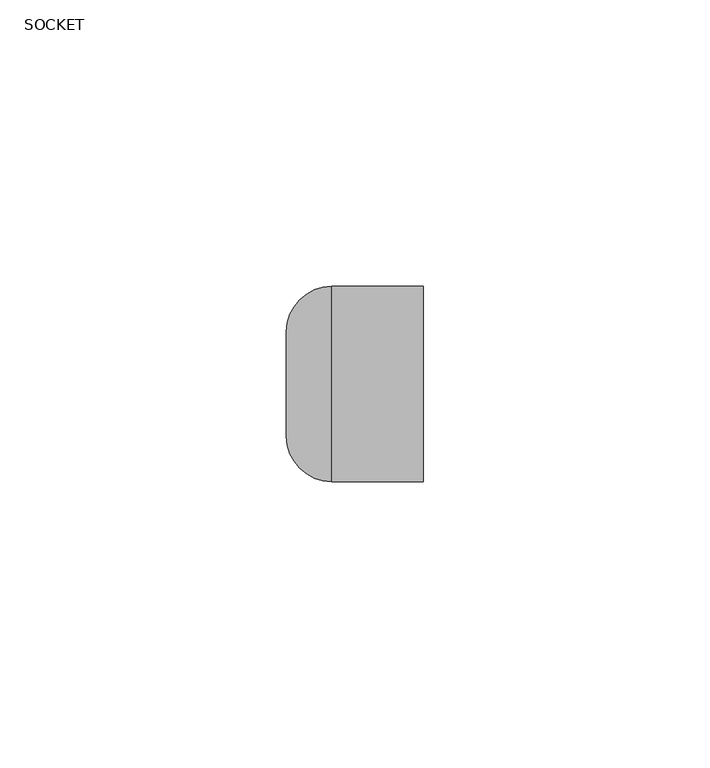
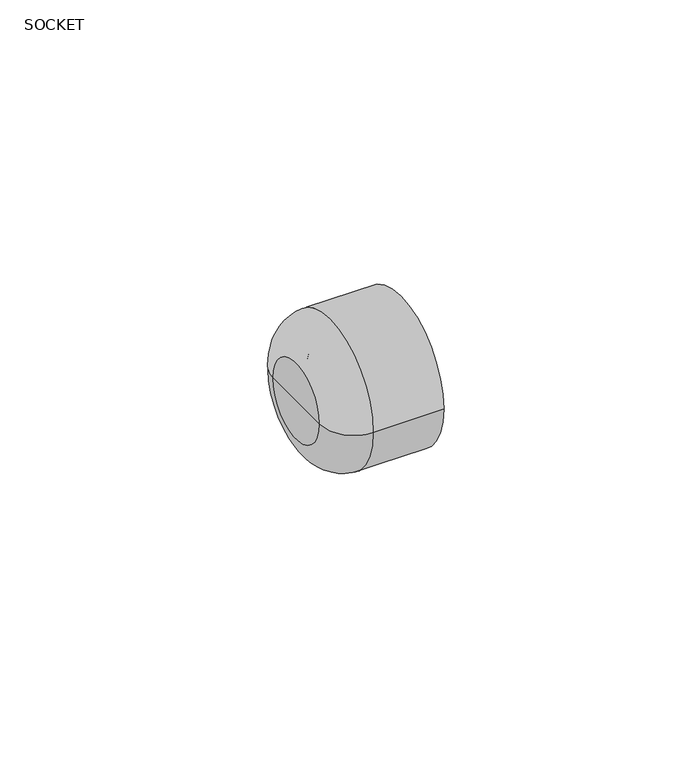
"""IFC4 building model written with IfcOpenShell, lengths in millimetres: pipe fitting geometry, Aquatherm - End Cap Socket : SOCKET."""

from ifc_helpers import new_model, si_unit, point, frame, origin, place, context, project, spatial, polyline, circle_curve, ellipse_curve, trimmed, source, transform, mapped, element, save
from ifc_brep_helpers import plane_surface, cylinder_surface, revolved_surface, advanced_brep


def socket_e6412d3c(model_context):
    return source(origin(), model_context, "Body", "AdvancedBrep", [
        advanced_brep(
        [(-23.876, 0.0, 0.0), (-23.876, 9.144, 0.0), (-23.876, -9.144, 0.0), (-15.5246832, -12.446, 0.0), (-15.5246832, 12.446, 0.0), (-15.5246832, 9.4540832, 0.0), (-15.5246832, -9.4540832, 0.0), (0.0, -12.446, 0.0), (0.0, 12.446, 0.0), (0.0, -17.018, 0.0), (0.0, 17.018, 0.0), (-16.002, -17.018, 0.0), (-16.002, 17.018, 0.0), (-16.3120832, -8.6666832, 0.0), (-16.3120832, 8.6666832, 0.0), (-16.3120832, 0.0, 0.0)],
        [
            (0, 1),
            (1, 2, circle_curve(frame((-23.876, 0.0, 0.0), z_axis=(-1.0, 0.0, 0.0), x_axis=(0.0, 1.0, 0.0)), 9.144)),
            (2, 0),
            (2, 1, circle_curve(frame((-23.876, 0.0, 0.0), z_axis=(-1.0, 0.0, 0.0), x_axis=(0.0, 1.0, 0.0)), 9.144)),
            (3, 4, circle_curve(frame((-15.5246832, 0.0, 0.0), z_axis=(1.0, 0.0, 0.0), x_axis=(0.0, 1.0, 0.0)), 12.446)),
            (4, 5),
            (5, 6, circle_curve(frame((-15.5246832, 0.0, 0.0), z_axis=(-1.0, 0.0, 0.0), x_axis=(0.0, 1.0, 0.0)), 9.4540832)),
            (6, 3),
            (4, 3, circle_curve(frame((-15.5246832, 0.0, 0.0), z_axis=(1.0, 0.0, 0.0), x_axis=(0.0, 1.0, 0.0)), 12.446)),
            (6, 5, circle_curve(frame((-15.5246832, 0.0, 0.0), z_axis=(-1.0, 0.0, 0.0), x_axis=(0.0, 1.0, 0.0)), 9.4540832)),
            (7, 8, circle_curve(frame((0.0, 0.0, 0.0), z_axis=(1.0, 0.0, 0.0), x_axis=(0.0, 1.0, 0.0)), 12.446)),
            (8, 4),
            (3, 7),
            (8, 7, circle_curve(frame((0.0, 0.0, 0.0), z_axis=(1.0, 0.0, 0.0), x_axis=(0.0, 1.0, 0.0)), 12.446)),
            (9, 10, circle_curve(frame((0.0, 0.0, 0.0), z_axis=(1.0, 0.0, 0.0), x_axis=(0.0, 1.0, 0.0)), 17.018)),
            (10, 8),
            (7, 9),
            (10, 9, circle_curve(frame((0.0, 0.0, 0.0), z_axis=(1.0, 0.0, 0.0), x_axis=(0.0, 1.0, 0.0)), 17.018)),
            (11, 12, circle_curve(frame((-16.002, 0.0, 0.0), z_axis=(1.0, 0.0, 0.0), x_axis=(0.0, 1.0, 0.0)), 17.018)),
            (12, 10),
            (9, 11),
            (12, 11, circle_curve(frame((-16.002, 0.0, 0.0), z_axis=(1.0, 0.0, 0.0), x_axis=(0.0, 1.0, 0.0)), 17.018)),
            (1, 12, circle_curve(frame((-16.002, 9.144, 0.0), z_axis=(0.0, 0.0, -1.0), x_axis=(1.0, 0.0, 0.0)), 7.874)),
            (11, 2, circle_curve(frame((-16.002, -9.144, 0.0), z_axis=(0.0, 0.0, -1.0), x_axis=(1.0, 0.0, 0.0)), 7.874)),
            (13, 14, circle_curve(frame((-16.3120832, 0.0, 0.0), z_axis=(1.0, 0.0, 0.0), x_axis=(0.0, 1.0, 0.0)), 8.6666832)),
            (14, 15),
            (15, 13),
            (14, 13, circle_curve(frame((-16.3120832, 0.0, 0.0), z_axis=(1.0, 0.0, 0.0), x_axis=(0.0, 1.0, 0.0)), 8.6666832)),
            (5, 14, circle_curve(frame((-15.5246832, 8.6666832, 0.0), z_axis=(0.0, 0.0, 1.0), x_axis=(1.0, 0.0, 0.0)), 0.7874)),
            (13, 6, circle_curve(frame((-15.5246832, -8.6666832, 0.0), z_axis=(0.0, 0.0, 1.0), x_axis=(1.0, 0.0, 0.0)), 0.7874)),
        ],
        [
            plane_surface(frame((-23.876, 0.0, 0.0), z_axis=(-1.0, 0.0, 0.0), x_axis=(0.0, 1.0, 0.0))),
            plane_surface(frame((-15.5246832, 0.0, 0.0), z_axis=(1.0, 0.0, 0.0), x_axis=(0.0, 1.0, 0.0))),
            revolved_surface(polyline([(-15.5246832, 12.446, 0.0), (0.0, 12.446, 0.0)]), (-16.3120832, 0.0, 0.0), (-1.0, 0.0, 0.0)),
            plane_surface(frame((0.0, 0.0, 0.0), z_axis=(1.0, 0.0, 0.0), x_axis=(0.0, 1.0, 0.0))),
            cylinder_surface(frame((-16.3120832, 0.0, 0.0), z_axis=(-1.0, 0.0, 0.0), x_axis=(0.0, 1.0, 0.0)), 17.018),
            revolved_surface(trimmed(ellipse_curve(frame((-16.002, 9.144, 0.0), z_axis=(0.0, 0.0, 1.0), x_axis=(1.0, 0.0, 0.0)), 7.874, 7.874), [point((-16.002, 17.018, 0.0))], [point((-23.876, 9.144, 0.0))], True, "CARTESIAN"), (-16.3120832, 0.0, 0.0), (-1.0, 0.0, 0.0)),
            plane_surface(frame((-16.3120832, 0.0, 0.0), z_axis=(1.0, 0.0, 0.0), x_axis=(0.0, 1.0, 0.0))),
            revolved_surface(trimmed(ellipse_curve(frame((-15.5246832, 8.6666832, 0.0), z_axis=(0.0, 0.0, -1.0), x_axis=(1.0, 0.0, 0.0)), 0.7874, 0.7874), [point((-16.3120832, 8.6666832, 0.0))], [point((-15.5246832, 9.4540832, 0.0))], True, "CARTESIAN"), (-16.3120832, 0.0, 0.0), (-1.0, 0.0, 0.0)),
        ],
        [
            (0, [[1, 2, 3]]),
            (0, [[-3, 4, -1]]),
            (1, [[5, 6, 7, 8]]),
            (1, [[9, -8, 10, -6]]),
            (2, [[11, 12, -5, 13]]),
            (2, [[14, -13, -9, -12]]),
            (3, [[15, 16, -11, 17]]),
            (3, [[18, -17, -14, -16]]),
            (4, [[19, 20, -15, 21]]),
            (4, [[22, -21, -18, -20]]),
            (5, [[-2, 23, -19, 24]]),
            (5, [[-4, -24, -22, -23]]),
            (6, [[25, 26, 27]]),
            (6, [[28, -27, -26]]),
            (7, [[-7, 29, -25, 30]]),
            (7, [[-10, -30, -28, -29]]),
        ],
    ),
    ])


if __name__ == "__main__":
    model = new_model("IFC4")
    model_context = context("Model", 3, world=origin())
    ifc_project = project(units=[si_unit("LENGTHUNIT", "METRE", prefix="MILLI")], contexts=[model_context])
    site = spatial("IfcSite", under=ifc_project)
    building = spatial("IfcBuilding", under=site)
    placement = place(None, origin())
    ifc_socket_shape = socket_e6412d3c(model_context)
    element("IfcPipeFitting", 1, ObjectType="Aquatherm - End Cap Socket : SOCKET", at=placement, inside=building, context=model_context, shape_type="MappedRepresentation", body=[
        mapped(ifc_socket_shape, transform((0.0, 0.0, 0.0), x_axis=(1.0, 0.0, 0.0), y_axis=(0.0, 1.0, 0.0), z_axis=(0.0, 0.0, 1.0))),
    ])
    save(model, "model.ifc")
